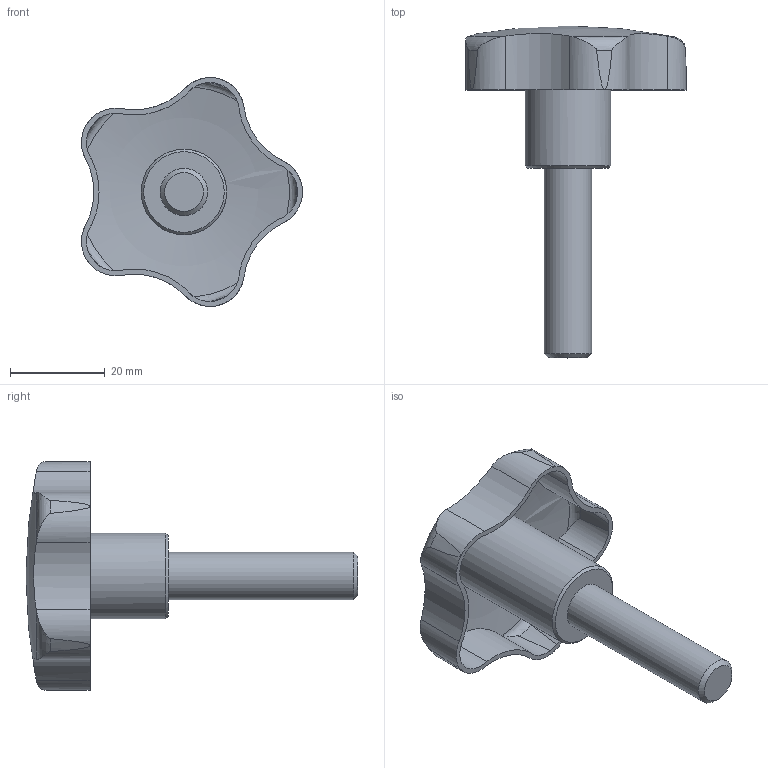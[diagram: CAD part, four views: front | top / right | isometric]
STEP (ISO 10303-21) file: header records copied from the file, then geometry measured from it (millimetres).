
FILE_DESCRIPTION( ( 'STEP AP203' ), '1' );
FILE_NAME( 'C:/Temp/Ganter_Step_05_03_2020/data/2_2/gn_5334_4/gn5334_4_2/Stainless Steel-Star knob with threaded bolt AISI 316L (A4) GN 5334.4-50-M10-40.stp', '2020-03-05T12:08:35', ( 'License CC BY-ND 4.0' ), ( 'CADENAS' ), ' ', 'PARTsolutions', ' ' );
FILE_SCHEMA( ( 'CONFIG_CONTROL_DESIGN' ) );
Length unit declared in the file: millimetre
Products named in the file (1): _Stainless Steel-Star knob with threaded bolt AISI 316L (A4) GN 5334.4-50-M10-40
Bounding box: 46.61 x 70 x 48.26 mm (x, y, z)
Volume: 13754.4 mm3; surface area: 9118.8 mm2
Topology: 1 solids, 1 shells, 59 faces, 160 edges, 104 vertices
Faces by surface type: cylinder 32, cone 12, torus 10, plane 3, sphere 2
Full cylindrical faces by diameter (mm): 10 x1, 18 x1
Entity records: 2466 total; most frequent: CARTESIAN_POINT 1057, ORIENTED_EDGE 302, DIRECTION 262, EDGE_CURVE 151, AXIS2_PLACEMENT_3D 121, VERTEX_POINT 102, B_SPLINE_CURVE_WITH_KNOTS 70, EDGE_LOOP 66
